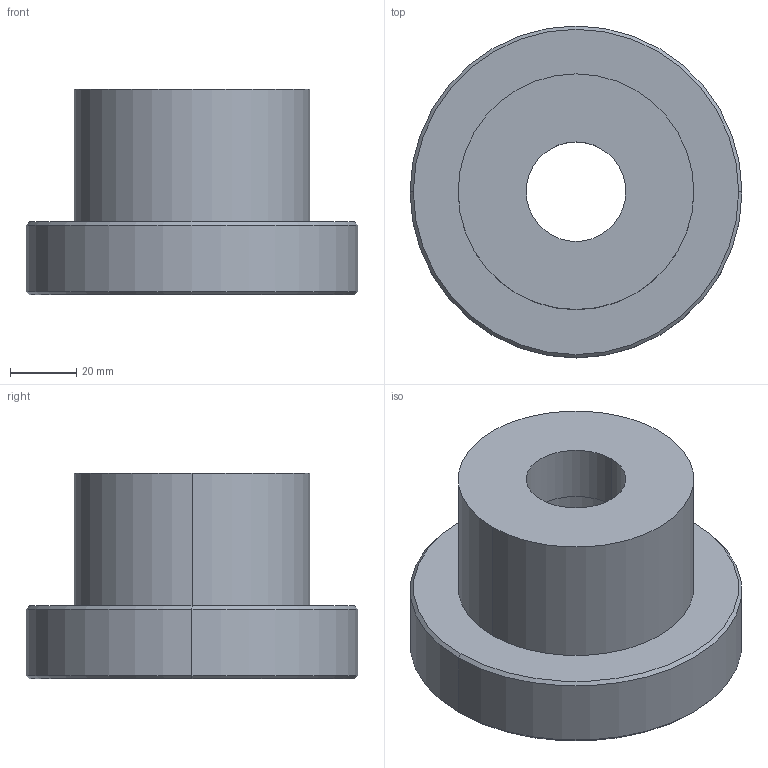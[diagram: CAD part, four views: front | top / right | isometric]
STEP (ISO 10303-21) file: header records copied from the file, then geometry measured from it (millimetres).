
FILE_DESCRIPTION (( 'STEP AP203' ), '1' );
FILE_NAME ('MATRICE brute.STEP', '2007-02-08T15:02:15', ( 'PATRICK' ), ( 'MAISON' ), 'SwSTEP 2.0', 'SolidWorks 2002127', '' );
FILE_SCHEMA (( 'CONFIG_CONTROL_DESIGN' ));
Length unit declared in the file: millimetre
Products named in the file (1): MATRICE brute
Bounding box: 100 x 100 x 62 mm (x, y, z)
Volume: 262278 mm3; surface area: 37014.3 mm2
Topology: 1 solids, 1 shells, 16 faces, 32 edges, 20 vertices
Faces by surface type: cylinder 8, plane 4, cone 4
Entity records: 505 total; most frequent: DIRECTION 86, CARTESIAN_POINT 69, ORIENTED_EDGE 64, AXIS2_PLACEMENT_3D 37, EDGE_CURVE 32, EDGE_LOOP 20, VERTEX_POINT 20, CIRCLE 20
